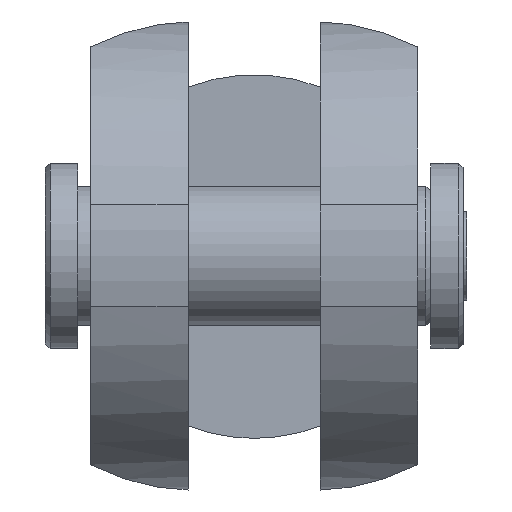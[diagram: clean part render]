
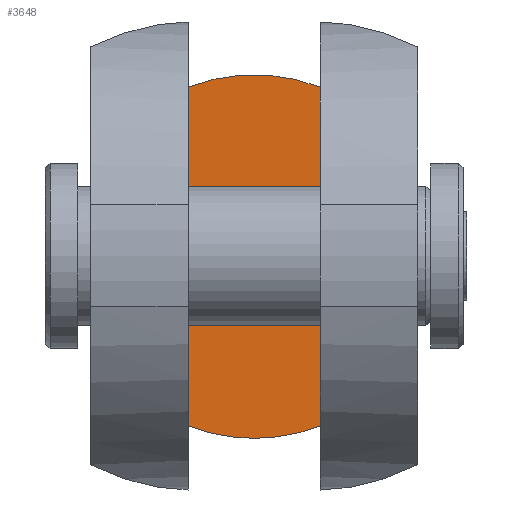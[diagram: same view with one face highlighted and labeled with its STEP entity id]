
A CAD part, top view. The second image highlights one B-rep face of the part: STEP entity #3648.
In plain terms, the highlighted planar face has unit normal (0, 0, 1).
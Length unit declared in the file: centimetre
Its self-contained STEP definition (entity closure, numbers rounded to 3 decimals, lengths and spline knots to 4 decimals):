
#173=PLANE('',#3855);
#586=LINE('',#6011,#942);
#587=LINE('',#6013,#943);
#942=VECTOR('',#4593,7.3);
#943=VECTOR('',#4596,7.3);
#1184=FACE_OUTER_BOUND('',#1410,.T.);
#1410=EDGE_LOOP('',(#3168,#3169,#3170,#3171));
#1478=CIRCLE('',#3710,3.9183);
#1479=CIRCLE('',#3711,3.9183);
#1543=VERTEX_POINT('',#4890);
#1544=VERTEX_POINT('',#4894);
#1549=VERTEX_POINT('',#4926);
#1550=VERTEX_POINT('',#4930);
#1875=EDGE_CURVE('',#1543,#1544,#1478,.T.);
#1881=EDGE_CURVE('',#1549,#1550,#1479,.T.);
#2276=EDGE_CURVE('',#1550,#1543,#586,.T.);
#2277=EDGE_CURVE('',#1549,#1544,#587,.T.);
#3168=ORIENTED_EDGE('',*,*,#1881,.F.);
#3169=ORIENTED_EDGE('',*,*,#2277,.T.);
#3170=ORIENTED_EDGE('',*,*,#1875,.F.);
#3171=ORIENTED_EDGE('',*,*,#2276,.F.);
#3648=ADVANCED_FACE('',(#1184),#173,.F.);
#3710=AXIS2_PLACEMENT_3D('',#4895,#3969,#3970);
#3711=AXIS2_PLACEMENT_3D('',#4931,#3971,#3972);
#3855=AXIS2_PLACEMENT_3D('',#6012,#4594,#4595);
#3969=DIRECTION('center_axis',(0.,0.,
-1.));
#3970=DIRECTION('ref_axis',(0.,-1.,0.));
#3971=DIRECTION('center_axis',(0.,0.,
-1.));
#3972=DIRECTION('ref_axis',(0.,-1.,0.));
#4593=DIRECTION('',(0.,1.,0.));
#4594=DIRECTION('center_axis',(0.,0.,
-1.));
#4595=DIRECTION('ref_axis',(-1.,0.,0.));
#4596=DIRECTION('',(0.,1.,0.));
#4890=CARTESIAN_POINT('',(-1.425,3.65,-6.5));
#4894=CARTESIAN_POINT('',(1.425,3.65,-6.5));
#4895=CARTESIAN_POINT('Origin',(0.,0.,
-6.5));
#4926=CARTESIAN_POINT('',(1.425,-3.65,-6.5));
#4930=CARTESIAN_POINT('',(-1.425,-3.65,-6.5));
#4931=CARTESIAN_POINT('Origin',(0.,0.,
-6.5));
#6011=CARTESIAN_POINT('',(-1.425,0.,-6.5));
#6012=CARTESIAN_POINT('Origin',(1.425,0.,-6.5));
#6013=CARTESIAN_POINT('',(1.425,0.,-6.5));
